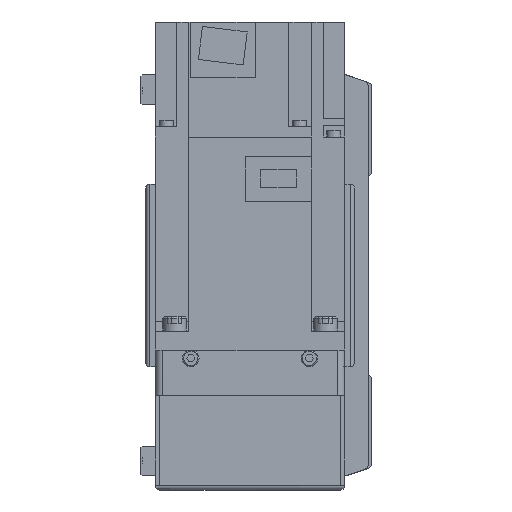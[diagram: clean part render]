
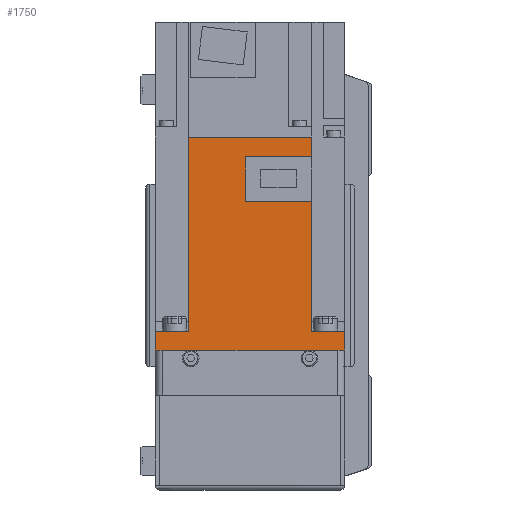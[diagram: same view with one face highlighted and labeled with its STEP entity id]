
A CAD part, left-side view. The second image highlights one B-rep face of the part: STEP entity #1750.
In plain terms, the highlighted planar face has unit normal (-1, 0, 0) as drawn and (1, 0, 0) by its records, which use the part's own axes.
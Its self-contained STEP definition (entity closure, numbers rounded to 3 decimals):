
#1750 = ADVANCED_FACE( '', ( #4171 ), #4172, .F. );
#4171 = FACE_OUTER_BOUND( '', #7417, .T. );
#4172 = PLANE( '', #7418 );
#7417 = EDGE_LOOP( '', ( #12337, #12338, #12339, #12340, #12341, #12342, #12343, #12344, #12345, #12346, #12347, #12348 ) );
#7418 = AXIS2_PLACEMENT_3D( '', #12349, #12350, #12351 );
#12337 = ORIENTED_EDGE( '', *, *, #20085, .F. );
#12338 = ORIENTED_EDGE( '', *, *, #19549, .F. );
#12339 = ORIENTED_EDGE( '', *, *, #20086, .F. );
#12340 = ORIENTED_EDGE( '', *, *, #20087, .T. );
#12341 = ORIENTED_EDGE( '', *, *, #20088, .F. );
#12342 = ORIENTED_EDGE( '', *, *, #20089, .T. );
#12343 = ORIENTED_EDGE( '', *, *, #20090, .T. );
#12344 = ORIENTED_EDGE( '', *, *, #19918, .F. );
#12345 = ORIENTED_EDGE( '', *, *, #20091, .F. );
#12346 = ORIENTED_EDGE( '', *, *, #19551, .F. );
#12347 = ORIENTED_EDGE( '', *, *, #19031, .F. );
#12348 = ORIENTED_EDGE( '', *, *, #20092, .F. );
#12349 = CARTESIAN_POINT( '', ( 40., 89.8, 40. ) );
#12350 = DIRECTION( '', ( -1., 0., 0. ) );
#12351 = DIRECTION( '', ( 0., 0., 1. ) );
#19031 = EDGE_CURVE( '', #22857, #22858, #22859, .T. );
#19549 = EDGE_CURVE( '', #23740, #23742, #23743, .T. );
#19551 = EDGE_CURVE( '', #22858, #23745, #23746, .T. );
#19918 = EDGE_CURVE( '', #24342, #24344, #24345, .T. );
#20085 = EDGE_CURVE( '', #23742, #24607, #24608, .T. );
#20086 = EDGE_CURVE( '', #24609, #23740, #24610, .T. );
#20087 = EDGE_CURVE( '', #24609, #24611, #24612, .T. );
#20088 = EDGE_CURVE( '', #24613, #24611, #24614, .T. );
#20089 = EDGE_CURVE( '', #24613, #24615, #24616, .T. );
#20090 = EDGE_CURVE( '', #24615, #24344, #24617, .T. );
#20091 = EDGE_CURVE( '', #23745, #24342, #24618, .T. );
#20092 = EDGE_CURVE( '', #24607, #22857, #24619, .T. );
#22857 = VERTEX_POINT( '', #28308 );
#22858 = VERTEX_POINT( '', #28309 );
#22859 = LINE( '', #28310, #28311 );
#23740 = VERTEX_POINT( '', #29710 );
#23742 = VERTEX_POINT( '', #29713 );
#23743 = LINE( '', #29714, #29715 );
#23745 = VERTEX_POINT( '', #29718 );
#23746 = LINE( '', #29719, #29720 );
#24342 = VERTEX_POINT( '', #30672 );
#24344 = VERTEX_POINT( '', #30675 );
#24345 = LINE( '', #30676, #30677 );
#24607 = VERTEX_POINT( '', #31057 );
#24608 = LINE( '', #31058, #31059 );
#24609 = VERTEX_POINT( '', #31060 );
#24610 = LINE( '', #31061, #31062 );
#24611 = VERTEX_POINT( '', #31063 );
#24612 = LINE( '', #31064, #31065 );
#24613 = VERTEX_POINT( '', #31066 );
#24614 = LINE( '', #31067, #31068 );
#24615 = VERTEX_POINT( '', #31069 );
#24616 = LINE( '', #31070, #31071 );
#24617 = LINE( '', #31072, #31073 );
#24618 = LINE( '', #31074, #31075 );
#24619 = LINE( '', #31076, #31077 );
#28308 = CARTESIAN_POINT( '', ( 40., 62.8, 1.8 ) );
#28309 = CARTESIAN_POINT( '', ( 40., 62.8, -25.95 ) );
#28310 = CARTESIAN_POINT( '', ( 40., 62.8, 1.8 ) );
#28311 = VECTOR( '', #35251, 1000. );
#29710 = CARTESIAN_POINT( '', ( 40., 89.8, -25.95 ) );
#29713 = CARTESIAN_POINT( '', ( 40., 81.4, -25.95 ) );
#29714 = CARTESIAN_POINT( '', ( 40., 158., -25.95 ) );
#29715 = VECTOR( '', #35908, 1000. );
#29718 = CARTESIAN_POINT( '', ( 40., 8., -25.95 ) );
#29719 = CARTESIAN_POINT( '', ( 40., 158., -25.95 ) );
#29720 = VECTOR( '', #35910, 1000. );
#30672 = CARTESIAN_POINT( '', ( 40., 8., -40. ) );
#30675 = CARTESIAN_POINT( '', ( 40., 0., -40. ) );
#30676 = CARTESIAN_POINT( '', ( 40., 89.8, -40. ) );
#30677 = VECTOR( '', #36406, 1000. );
#31057 = CARTESIAN_POINT( '', ( 40., 81.4, 1.8 ) );
#31058 = CARTESIAN_POINT( '', ( 40., 81.4, -26. ) );
#31059 = VECTOR( '', #36587, 1000. );
#31060 = CARTESIAN_POINT( '', ( 40., 89.8, 25.95 ) );
#31061 = CARTESIAN_POINT( '', ( 40., 89.8, 40. ) );
#31062 = VECTOR( '', #36588, 1000. );
#31063 = CARTESIAN_POINT( '', ( 40., 8., 25.95 ) );
#31064 = CARTESIAN_POINT( '', ( 40., 158., 25.95 ) );
#31065 = VECTOR( '', #36589, 1000. );
#31066 = CARTESIAN_POINT( '', ( 40., 8., 40. ) );
#31067 = CARTESIAN_POINT( '', ( 40., 8., 40. ) );
#31068 = VECTOR( '', #36590, 1000. );
#31069 = CARTESIAN_POINT( '', ( 40., 0., 40. ) );
#31070 = CARTESIAN_POINT( '', ( 40., 89.8, 40. ) );
#31071 = VECTOR( '', #36591, 1000. );
#31072 = CARTESIAN_POINT( '', ( 40., 0., 40. ) );
#31073 = VECTOR( '', #36592, 1000. );
#31074 = CARTESIAN_POINT( '', ( 40., 8., 40. ) );
#31075 = VECTOR( '', #36593, 1000. );
#31076 = CARTESIAN_POINT( '', ( 40., 81.4, 1.8 ) );
#31077 = VECTOR( '', #36594, 1000. );
#35251 = DIRECTION( '', ( 0., 0., -1. ) );
#35908 = DIRECTION( '', ( 0., -1., 0. ) );
#35910 = DIRECTION( '', ( 0., -1., 0. ) );
#36406 = DIRECTION( '', ( 0., -1., 0. ) );
#36587 = DIRECTION( '', ( 0., 0., 1. ) );
#36588 = DIRECTION( '', ( 0., 0., -1. ) );
#36589 = DIRECTION( '', ( 0., -1., 0. ) );
#36590 = DIRECTION( '', ( 0., 0., -1. ) );
#36591 = DIRECTION( '', ( 0., -1., 0. ) );
#36592 = DIRECTION( '', ( 0., 0., -1. ) );
#36593 = DIRECTION( '', ( 0., 0., -1. ) );
#36594 = DIRECTION( '', ( 0., -1., 0. ) );
